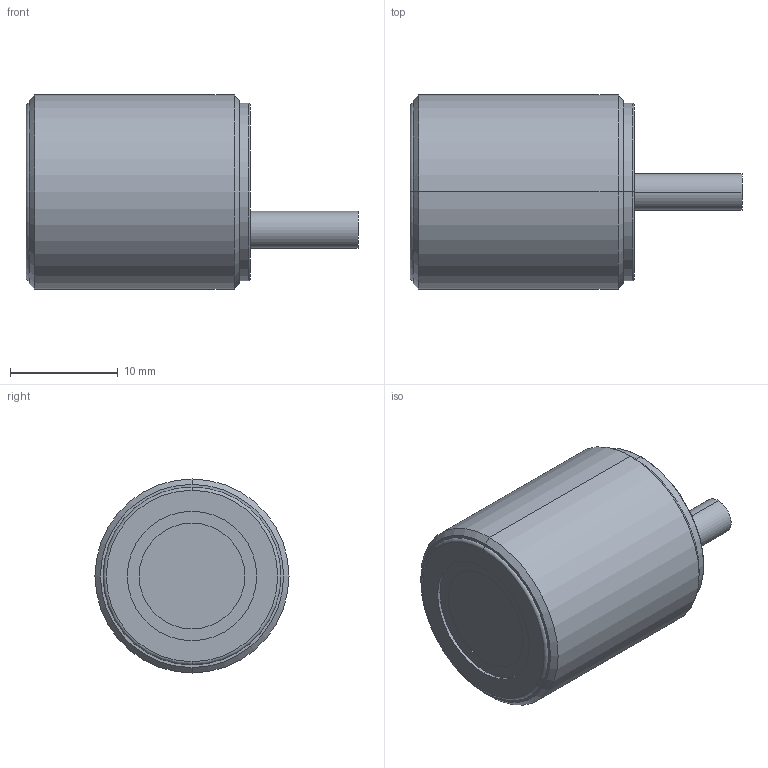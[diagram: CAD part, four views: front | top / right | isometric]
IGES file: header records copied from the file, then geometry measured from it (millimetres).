
Global section: file name: No Iges File Name specified; native system: Autodesk Inventor 2009; preprocessor: AutoDesk Inventor Iges Exporter R2009; author: Oliver Liedtke; date: 20100128.134833; units: millimetre
Bounding box: 30.8 x 18 x 18 mm (x, y, z)
Volume: 5260 mm3; surface area: 1789.1 mm2
Topology: 1 solids, 1 shells, 30 faces, 60 edges, 38 vertices
Faces by surface type: plane 12, cylinder 6, revolution 4, torus 4, cone 4
